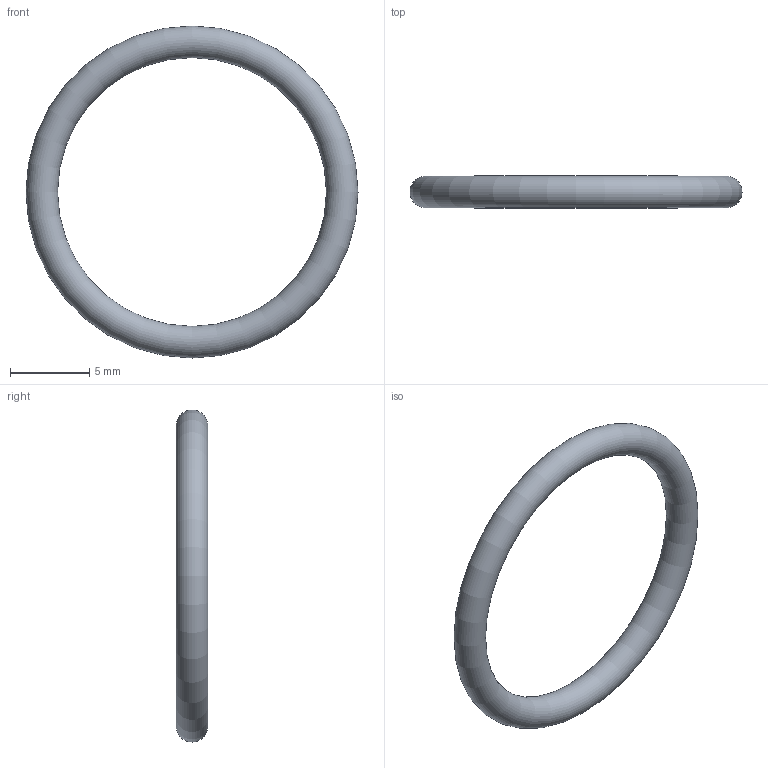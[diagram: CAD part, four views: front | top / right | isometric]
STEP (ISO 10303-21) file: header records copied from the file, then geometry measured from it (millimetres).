
FILE_DESCRIPTION( ( 'STEP AP203' ), '1' );
FILE_NAME( 'C:/Temp/Ganter_Step_05_03_2020/data/3_5/or638/O-Ring OR638-17.00-2.00-70.stp', '2020-03-12T13:44:22', ( 'License CC BY-ND 4.0' ), ( 'CADENAS' ), ' ', 'PARTsolutions', ' ' );
FILE_SCHEMA( ( 'CONFIG_CONTROL_DESIGN' ) );
Length unit declared in the file: millimetre
Products named in the file (1): _O-Ring OR638-17.00-2.00-70
Bounding box: 21 x 2 x 21 mm (x, y, z)
Volume: 187.5 mm3; surface area: 375 mm2
Topology: 1 solids, 1 shells, 1 faces, 2 edges, 1 vertices
Faces by surface type: torus 1
Entity records: 62 total; most frequent: CC_DESIGN_PERSON_AND_ORGANIZATION_ASSIGNMENT 5, PERSON_AND_ORGANIZATION_ROLE 4, DIRECTION 4, CARTESIAN_POINT 3, DATE_TIME_ROLE 2, CC_DESIGN_DATE_AND_TIME_ASSIGNMENT 2, AXIS2_PLACEMENT_3D 2, DIMENSIONAL_EXPONENTS 2
